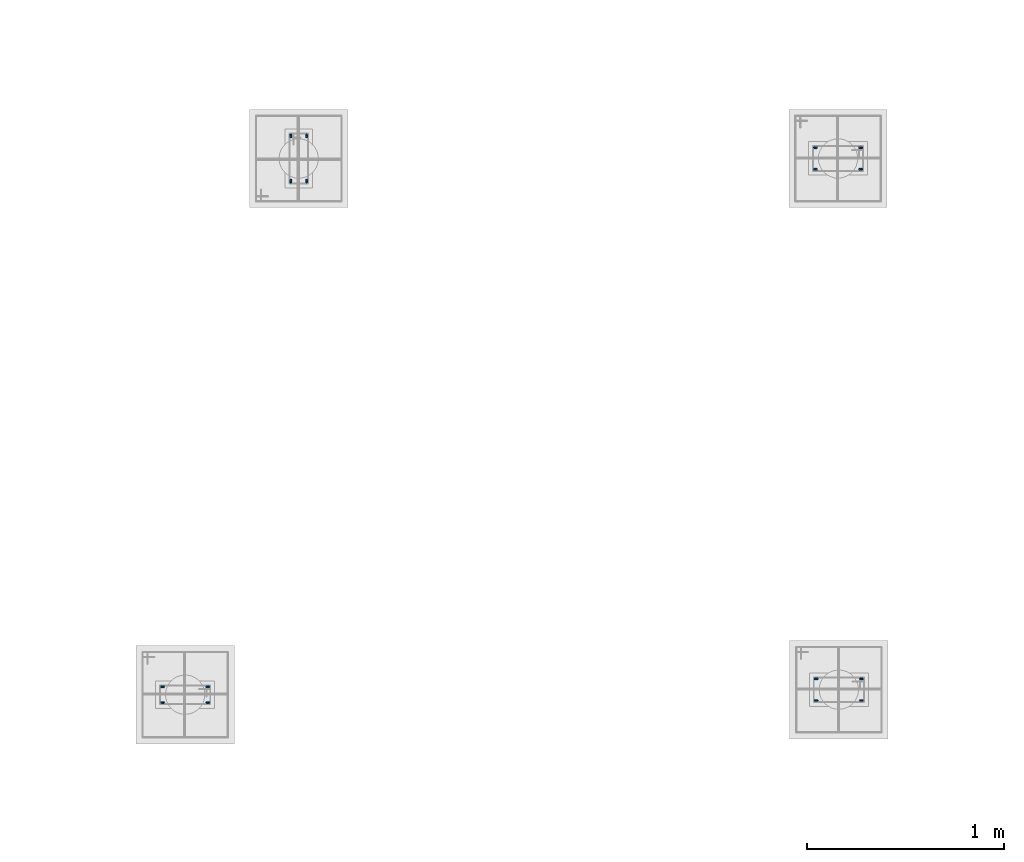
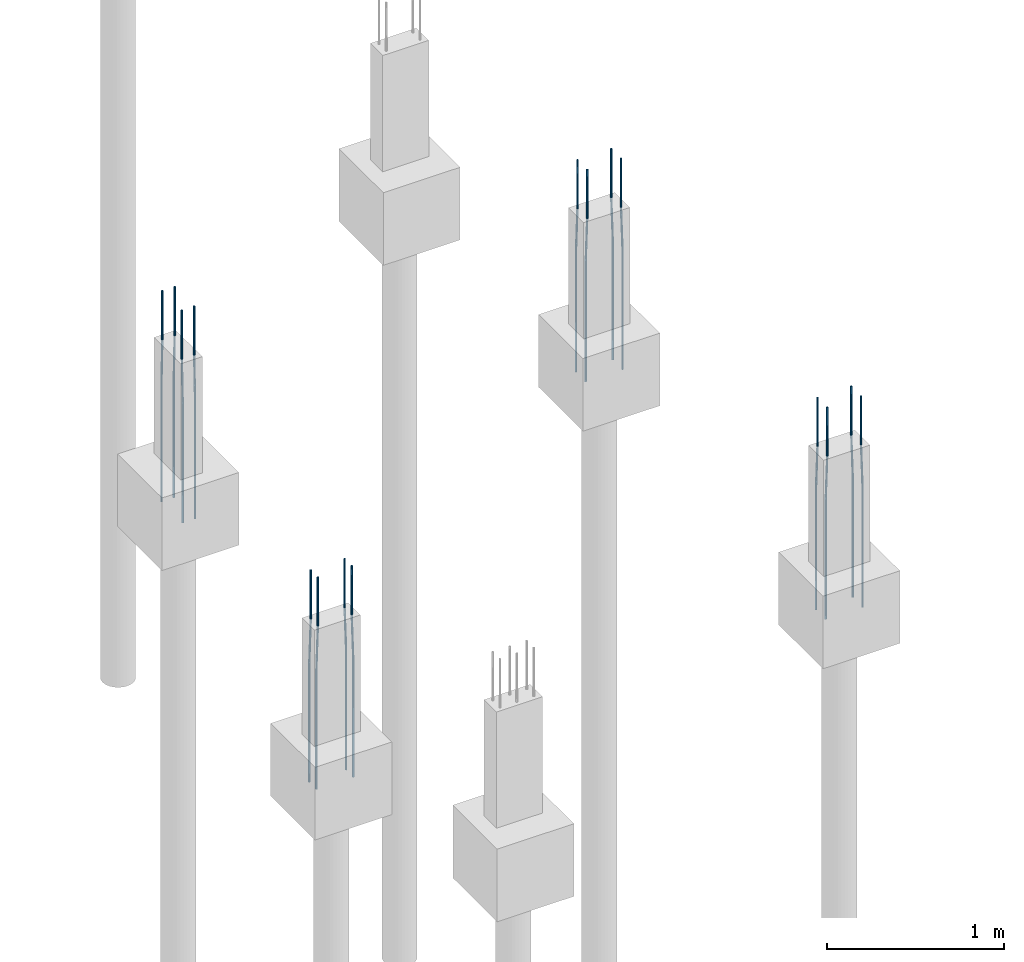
# One storey, part 48 of 119: 16 reinforcing bars.
"""IFC4 building model written with IfcOpenShell, lengths in centimetres."""

from ifc_helpers import new_model, entity, si_unit, derived_unit, frame, origin_with_axes, place, context, project, spatial, element, save


model = new_model("IFC4")

# Units and contexts
model_context = context("Model", 3, precision=1e-05, world=origin_with_axes(), identifier="Body")
ifc_project = project(units=[si_unit("LENGTHUNIT", "METRE", prefix="CENTI"), si_unit("VOLUMEUNIT", "CUBIC_METRE"), si_unit("AREAUNIT", "SQUARE_METRE"), si_unit("POWERUNIT", "WATT"), si_unit("LUMINOUSFLUXUNIT", "LUMEN"), si_unit("ELECTRICCURRENTUNIT", "AMPERE"), si_unit("PRESSUREUNIT", "PASCAL", prefix="KILO"), si_unit("MASSUNIT", "GRAM", prefix="KILO"), si_unit("PLANEANGLEUNIT", "RADIAN"), derived_unit("VOLUMETRICFLOWRATEUNIT", [(si_unit("LENGTHUNIT", "METRE"), 3), (si_unit("TIMEUNIT", "SECOND"), -1)])], contexts=[model_context])

# Site, building, storey
site_placement = place(None, frame((-4000.0, 0.0, 0.0), z_axis=(0.0, 0.0, 1.0), x_axis=(1.0, 0.0, 0.0)))
site = spatial("IfcSite", under=ifc_project, at=site_placement, Name="PADRÃO")
building_placement = place(site_placement, frame((0.0, 0.0, -14.0)))
building = spatial("IfcBuilding", under=site, at=building_placement, Name="CRECHE PRÉ-ESCOLA TIPO 2")
storey_placement = place(building_placement, origin_with_axes())
storey = spatial("IfcBuildingStorey", under=building, at=storey_placement, Name="FUNDAÇÃO", CompositionType="ELEMENT", Elevation=-14.0)

# Reinforcing bars
reinforcing_bar_1_placement = place(storey_placement, frame((1114.72, 3481.5, 33.3573001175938), z_axis=(0.0, 0.0, 1.0), x_axis=(1.0, 0.0, 0.0)))
element("IfcReinforcingBar", 1, at=reinforcing_bar_1_placement, inside=storey, Name="P40 - Longitudinal", BarLength=0.0, CrossSectionArea=7.853981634e-05, NominalDiameter=1.0, PredefinedType="MAIN", context=model_context, shape_type="AdvancedSweptSolid", body=[
    entity("IfcSweptDiskSolid", entity("IfcCompositeCurve", [entity("IfcCompositeCurveSegment", "CONTINUOUS", True, entity("IfcPolyline", [entity("IfcCartesianPoint", [0.0, 0.5, -145.357300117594]), entity("IfcCartesianPoint", [0.0, 0.5, -63.3573001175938])])), entity("IfcCompositeCurveSegment", "CONTINUOUS", True, entity("IfcPolyline", [entity("IfcCartesianPoint", [0.0, 0.5, -63.3573001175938]), entity("IfcCartesianPoint", [0.0, -0.5, -33.3573001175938])])), entity("IfcCompositeCurveSegment", "CONTINUOUS", True, entity("IfcPolyline", [entity("IfcCartesianPoint", [0.0, -0.5, -33.3573001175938]), entity("IfcCartesianPoint", [0.0, -0.5, 0.0])]))], False), 0.5),
])
for number, where, z_axis, x_axis, name in (
    (2, (1122.72, 3458.5, 33.3573001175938), (0.0, 0.0, 1.0), (1.0, 0.0, 0.0), "P40 - Longitudinal"),
    (3, (1114.72, 3458.5, 33.3573001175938), (0.0, 0.0, 1.0), (1.0, 0.0, 0.0), "P40 - Longitudinal"),
):
    element("IfcReinforcingBar", number, at=place(storey_placement, frame(where, z_axis=z_axis, x_axis=x_axis)), inside=storey, Name=name, BarLength=0.0, CrossSectionArea=7.853981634e-05, NominalDiameter=1.0, PredefinedType="MAIN", context=model_context, shape_type="AdvancedSweptSolid", body=[
        entity("IfcSweptDiskSolid", entity("IfcCompositeCurve", [entity("IfcCompositeCurveSegment", "CONTINUOUS", True, entity("IfcPolyline", [entity("IfcCartesianPoint", [0.0, -0.5, -145.357300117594]), entity("IfcCartesianPoint", [0.0, -0.5, -63.3573001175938])])), entity("IfcCompositeCurveSegment", "CONTINUOUS", True, entity("IfcPolyline", [entity("IfcCartesianPoint", [0.0, -0.5, -63.3573001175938]), entity("IfcCartesianPoint", [0.0, 0.5, -33.3573001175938])])), entity("IfcCompositeCurveSegment", "CONTINUOUS", True, entity("IfcPolyline", [entity("IfcCartesianPoint", [0.0, 0.5, -33.3573001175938]), entity("IfcCartesianPoint", [0.0, 0.5, 0.0])]))], False), 0.5),
    ])
reinforcing_bar_2_placement = place(storey_placement, frame((1122.72, 3481.5, 33.3573001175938), z_axis=(0.0, 0.0, 1.0), x_axis=(1.0, 0.0, 0.0)))
element("IfcReinforcingBar", 4, at=reinforcing_bar_2_placement, inside=storey, Name="P40 - Longitudinal", BarLength=0.0, CrossSectionArea=7.853981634e-05, NominalDiameter=1.0, PredefinedType="MAIN", context=model_context, shape_type="AdvancedSweptSolid", body=[
    entity("IfcSweptDiskSolid", entity("IfcCompositeCurve", [entity("IfcCompositeCurveSegment", "CONTINUOUS", True, entity("IfcPolyline", [entity("IfcCartesianPoint", [0.0, 0.5, -145.357300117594]), entity("IfcCartesianPoint", [0.0, 0.5, -63.3573001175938])])), entity("IfcCompositeCurveSegment", "CONTINUOUS", True, entity("IfcPolyline", [entity("IfcCartesianPoint", [0.0, 0.5, -63.3573001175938]), entity("IfcCartesianPoint", [0.0, -0.5, -33.3573001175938])])), entity("IfcCompositeCurveSegment", "CONTINUOUS", True, entity("IfcPolyline", [entity("IfcCartesianPoint", [0.0, -0.5, -33.3573001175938]), entity("IfcCartesianPoint", [0.0, -0.5, 0.0])]))], False), 0.5),
])
reinforcing_bar_3_placement = place(storey_placement, frame((1404.34, 3475.52, 33.3573001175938), z_axis=(0.0, 0.0, 1.0), x_axis=(1.0, 0.0, 0.0)))
element("IfcReinforcingBar", 5, at=reinforcing_bar_3_placement, inside=storey, Name="P41 - Longitudinal", BarLength=0.0, CrossSectionArea=7.853981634e-05, NominalDiameter=1.0, PredefinedType="MAIN", context=model_context, shape_type="AdvancedSweptSolid", body=[
    entity("IfcSweptDiskSolid", entity("IfcCompositeCurve", [entity("IfcCompositeCurveSegment", "CONTINUOUS", True, entity("IfcPolyline", [entity("IfcCartesianPoint", [0.5, 0.0, -145.357300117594]), entity("IfcCartesianPoint", [0.5, 0.0, -63.3573001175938])])), entity("IfcCompositeCurveSegment", "CONTINUOUS", True, entity("IfcPolyline", [entity("IfcCartesianPoint", [0.5, 0.0, -63.3573001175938]), entity("IfcCartesianPoint", [-0.5, 0.0, -33.3573001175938])])), entity("IfcCompositeCurveSegment", "CONTINUOUS", True, entity("IfcPolyline", [entity("IfcCartesianPoint", [-0.5, 0.0, -33.3573001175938]), entity("IfcCartesianPoint", [-0.5, 0.0, 0.0])]))], False), 0.5),
])
for number, where, z_axis, x_axis, name in (
    (6, (1381.34, 3475.52, 33.3573001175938), (0.0, 0.0, 1.0), (1.0, 0.0, 0.0), "P41 - Longitudinal"),
    (7, (1381.34, 3464.52, 33.3573001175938), (0.0, 0.0, 1.0), (1.0, 0.0, 0.0), "P41 - Longitudinal"),
):
    element("IfcReinforcingBar", number, at=place(storey_placement, frame(where, z_axis=z_axis, x_axis=x_axis)), inside=storey, Name=name, BarLength=0.0, CrossSectionArea=7.853981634e-05, NominalDiameter=1.0, PredefinedType="MAIN", context=model_context, shape_type="AdvancedSweptSolid", body=[
        entity("IfcSweptDiskSolid", entity("IfcCompositeCurve", [entity("IfcCompositeCurveSegment", "CONTINUOUS", True, entity("IfcPolyline", [entity("IfcCartesianPoint", [-0.5, 0.0, -145.357300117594]), entity("IfcCartesianPoint", [-0.5, 0.0, -63.3573001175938])])), entity("IfcCompositeCurveSegment", "CONTINUOUS", True, entity("IfcPolyline", [entity("IfcCartesianPoint", [-0.5, 0.0, -63.3573001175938]), entity("IfcCartesianPoint", [0.5, 0.0, -33.3573001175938])])), entity("IfcCompositeCurveSegment", "CONTINUOUS", True, entity("IfcPolyline", [entity("IfcCartesianPoint", [0.5, 0.0, -33.3573001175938]), entity("IfcCartesianPoint", [0.5, 0.0, 0.0])]))], False), 0.5),
    ])
reinforcing_bar_4_placement = place(storey_placement, frame((1404.34, 3464.52, 33.3573001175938), z_axis=(0.0, 0.0, 1.0), x_axis=(1.0, 0.0, 0.0)))
element("IfcReinforcingBar", 8, at=reinforcing_bar_4_placement, inside=storey, Name="P41 - Longitudinal", BarLength=0.0, CrossSectionArea=7.853981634e-05, NominalDiameter=1.0, PredefinedType="MAIN", context=model_context, shape_type="AdvancedSweptSolid", body=[
    entity("IfcSweptDiskSolid", entity("IfcCompositeCurve", [entity("IfcCompositeCurveSegment", "CONTINUOUS", True, entity("IfcPolyline", [entity("IfcCartesianPoint", [0.5, 0.0, -145.357300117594]), entity("IfcCartesianPoint", [0.5, 0.0, -63.3573001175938])])), entity("IfcCompositeCurveSegment", "CONTINUOUS", True, entity("IfcPolyline", [entity("IfcCartesianPoint", [0.5, 0.0, -63.3573001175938]), entity("IfcCartesianPoint", [-0.5, 0.0, -33.3573001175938])])), entity("IfcCompositeCurveSegment", "CONTINUOUS", True, entity("IfcPolyline", [entity("IfcCartesianPoint", [-0.5, 0.0, -33.3573001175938]), entity("IfcCartesianPoint", [-0.5, 0.0, 0.0])]))], False), 0.5),
])
reinforcing_bar_5_placement = place(storey_placement, frame((1049.5, 3193.49, 33.3573001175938), z_axis=(0.0, 0.0, 1.0), x_axis=(1.0, 0.0, 0.0)))
element("IfcReinforcingBar", 9, at=reinforcing_bar_5_placement, inside=storey, Name="P50 - Longitudinal", BarLength=0.0, CrossSectionArea=7.853981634e-05, NominalDiameter=1.0, PredefinedType="MAIN", context=model_context, shape_type="AdvancedSweptSolid", body=[
    entity("IfcSweptDiskSolid", entity("IfcCompositeCurve", [entity("IfcCompositeCurveSegment", "CONTINUOUS", True, entity("IfcPolyline", [entity("IfcCartesianPoint", [-0.5, 0.0, -145.357300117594]), entity("IfcCartesianPoint", [-0.5, 0.0, -63.3573001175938])])), entity("IfcCompositeCurveSegment", "CONTINUOUS", True, entity("IfcPolyline", [entity("IfcCartesianPoint", [-0.5, 0.0, -63.3573001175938]), entity("IfcCartesianPoint", [0.5, 0.0, -33.3573001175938])])), entity("IfcCompositeCurveSegment", "CONTINUOUS", True, entity("IfcPolyline", [entity("IfcCartesianPoint", [0.5, 0.0, -33.3573001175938]), entity("IfcCartesianPoint", [0.5, 0.0, 0.0])]))], False), 0.5),
])
for number, where, z_axis, x_axis, name in (
    (10, (1072.5, 3193.49, 33.3573001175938), (0.0, 0.0, 1.0), (1.0, 0.0, 0.0), "P50 - Longitudinal"),
    (11, (1072.5, 3201.49, 33.3573001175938), (0.0, 0.0, 1.0), (1.0, 0.0, 0.0), "P50 - Longitudinal"),
):
    element("IfcReinforcingBar", number, at=place(storey_placement, frame(where, z_axis=z_axis, x_axis=x_axis)), inside=storey, Name=name, BarLength=0.0, CrossSectionArea=7.853981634e-05, NominalDiameter=1.0, PredefinedType="MAIN", context=model_context, shape_type="AdvancedSweptSolid", body=[
        entity("IfcSweptDiskSolid", entity("IfcCompositeCurve", [entity("IfcCompositeCurveSegment", "CONTINUOUS", True, entity("IfcPolyline", [entity("IfcCartesianPoint", [0.5, 0.0, -145.357300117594]), entity("IfcCartesianPoint", [0.5, 0.0, -63.3573001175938])])), entity("IfcCompositeCurveSegment", "CONTINUOUS", True, entity("IfcPolyline", [entity("IfcCartesianPoint", [0.5, 0.0, -63.3573001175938]), entity("IfcCartesianPoint", [-0.5, 0.0, -33.3573001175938])])), entity("IfcCompositeCurveSegment", "CONTINUOUS", True, entity("IfcPolyline", [entity("IfcCartesianPoint", [-0.5, 0.0, -33.3573001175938]), entity("IfcCartesianPoint", [-0.5, 0.0, 0.0])]))], False), 0.5),
    ])
for number, where, z_axis, x_axis, name in (
    (12, (1049.5, 3201.49, 33.3573001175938), (0.0, 0.0, 1.0), (1.0, 0.0, 0.0), "P50 - Longitudinal"),
    (13, (1381.75, 3205.52, 33.3573001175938), (0.0, 0.0, 1.0), (1.0, 0.0, 0.0), "P51 - Longitudinal"),
):
    element("IfcReinforcingBar", number, at=place(storey_placement, frame(where, z_axis=z_axis, x_axis=x_axis)), inside=storey, Name=name, BarLength=0.0, CrossSectionArea=7.853981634e-05, NominalDiameter=1.0, PredefinedType="MAIN", context=model_context, shape_type="AdvancedSweptSolid", body=[
        entity("IfcSweptDiskSolid", entity("IfcCompositeCurve", [entity("IfcCompositeCurveSegment", "CONTINUOUS", True, entity("IfcPolyline", [entity("IfcCartesianPoint", [-0.5, 0.0, -145.357300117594]), entity("IfcCartesianPoint", [-0.5, 0.0, -63.3573001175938])])), entity("IfcCompositeCurveSegment", "CONTINUOUS", True, entity("IfcPolyline", [entity("IfcCartesianPoint", [-0.5, 0.0, -63.3573001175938]), entity("IfcCartesianPoint", [0.5, 0.0, -33.3573001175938])])), entity("IfcCompositeCurveSegment", "CONTINUOUS", True, entity("IfcPolyline", [entity("IfcCartesianPoint", [0.5, 0.0, -33.3573001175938]), entity("IfcCartesianPoint", [0.5, 0.0, 0.0])]))], False), 0.5),
    ])
for number, where, z_axis, x_axis, name in (
    (14, (1404.75, 3205.52, 33.3573001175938), (0.0, 0.0, 1.0), (1.0, 0.0, 0.0), "P51 - Longitudinal"),
    (15, (1404.75, 3194.52, 33.3573001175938), (0.0, 0.0, 1.0), (1.0, 0.0, 0.0), "P51 - Longitudinal"),
):
    element("IfcReinforcingBar", number, at=place(storey_placement, frame(where, z_axis=z_axis, x_axis=x_axis)), inside=storey, Name=name, BarLength=0.0, CrossSectionArea=7.853981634e-05, NominalDiameter=1.0, PredefinedType="MAIN", context=model_context, shape_type="AdvancedSweptSolid", body=[
        entity("IfcSweptDiskSolid", entity("IfcCompositeCurve", [entity("IfcCompositeCurveSegment", "CONTINUOUS", True, entity("IfcPolyline", [entity("IfcCartesianPoint", [0.5, 0.0, -145.357300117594]), entity("IfcCartesianPoint", [0.5, 0.0, -63.3573001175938])])), entity("IfcCompositeCurveSegment", "CONTINUOUS", True, entity("IfcPolyline", [entity("IfcCartesianPoint", [0.5, 0.0, -63.3573001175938]), entity("IfcCartesianPoint", [-0.5, 0.0, -33.3573001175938])])), entity("IfcCompositeCurveSegment", "CONTINUOUS", True, entity("IfcPolyline", [entity("IfcCartesianPoint", [-0.5, 0.0, -33.3573001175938]), entity("IfcCartesianPoint", [-0.5, 0.0, 0.0])]))], False), 0.5),
    ])
reinforcing_bar_6_placement = place(storey_placement, frame((1381.75, 3194.52, 33.3573001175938), z_axis=(0.0, 0.0, 1.0), x_axis=(1.0, 0.0, 0.0)))
element("IfcReinforcingBar", 16, at=reinforcing_bar_6_placement, inside=storey, Name="P51 - Longitudinal", BarLength=0.0, CrossSectionArea=7.853981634e-05, NominalDiameter=1.0, PredefinedType="MAIN", context=model_context, shape_type="AdvancedSweptSolid", body=[
    entity("IfcSweptDiskSolid", entity("IfcCompositeCurve", [entity("IfcCompositeCurveSegment", "CONTINUOUS", True, entity("IfcPolyline", [entity("IfcCartesianPoint", [-0.5, 0.0, -145.357300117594]), entity("IfcCartesianPoint", [-0.5, 0.0, -63.3573001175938])])), entity("IfcCompositeCurveSegment", "CONTINUOUS", True, entity("IfcPolyline", [entity("IfcCartesianPoint", [-0.5, 0.0, -63.3573001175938]), entity("IfcCartesianPoint", [0.5, 0.0, -33.3573001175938])])), entity("IfcCompositeCurveSegment", "CONTINUOUS", True, entity("IfcPolyline", [entity("IfcCartesianPoint", [0.5, 0.0, -33.3573001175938]), entity("IfcCartesianPoint", [0.5, 0.0, 0.0])]))], False), 0.5),
])

save(model, "model.ifc")
